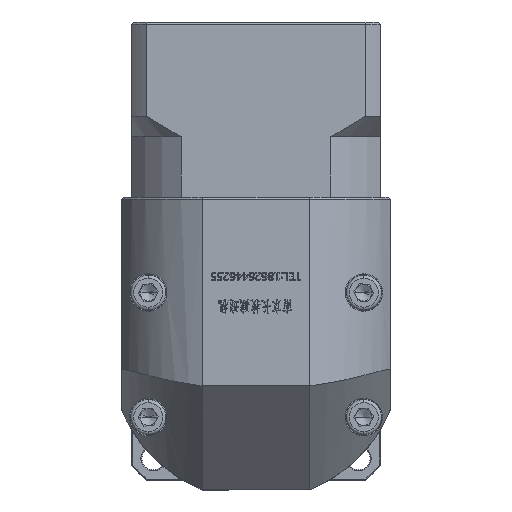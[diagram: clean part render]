
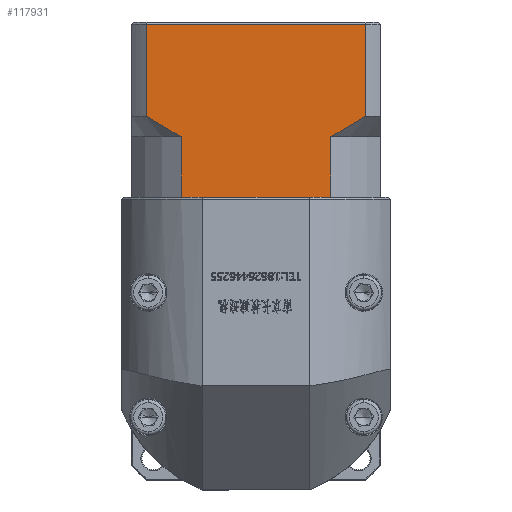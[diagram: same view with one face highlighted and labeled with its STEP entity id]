
A CAD part, top view. The second image highlights one B-rep face of the part: STEP entity #117931.
In plain terms, the highlighted planar face has unit normal (0, 0, 1).
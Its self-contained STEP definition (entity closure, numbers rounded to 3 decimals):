
#1671 = VERTEX_POINT ( 'NONE', #127778 ) ;
#2183 = VECTOR ( 'NONE', #77934, 1000. ) ;
#2710 = CARTESIAN_POINT ( 'NONE',  ( 28.9, 67.272, 200.65 ) ) ;
#6143 = VERTEX_POINT ( 'NONE', #123512 ) ;
#7042 = VERTEX_POINT ( 'NONE', #123620 ) ;
#8567 = VERTEX_POINT ( 'NONE', #67605 ) ;
#8591 = CARTESIAN_POINT ( 'NONE',  ( 21.833, 63.173, 200.65 ) ) ;
#12230 = VECTOR ( 'NONE', #43903, 1000. ) ;
#12321 = VECTOR ( 'NONE', #71000, 1000. ) ;
#13935 = CARTESIAN_POINT ( 'NONE',  ( 23.29, 63.924, 200.65 ) ) ;
#16590 = CARTESIAN_POINT ( 'NONE',  ( -21.292, 67.274, 200.65 ) ) ;
#16838 = LINE ( 'NONE', #120016, #134090 ) ;
#19514 = LINE ( 'NONE', #8591, #12230 ) ;
#19632 = ORIENTED_EDGE ( 'NONE', *, *, #54660, .F. ) ;
#27469 = LINE ( 'NONE', #51856, #117332 ) ;
#28371 = CARTESIAN_POINT ( 'NONE',  ( -17.106, 64.725, 200.65 ) ) ;
#28745 = DIRECTION ( 'NONE',  ( 0., 1., 0. ) ) ;
#28934 = EDGE_CURVE ( 'NONE', #7042, #61289, #16838, .T. ) ;
#30195 = ORIENTED_EDGE ( 'NONE', *, *, #148524, .F. ) ;
#34125 = DIRECTION ( 'NONE',  ( 1., 0., 0. ) ) ;
#35258 = AXIS2_PLACEMENT_3D ( 'NONE', #136271, #66127, #148009 ) ;
#36543 = ORIENTED_EDGE ( 'NONE', *, *, #120409, .T. ) ;
#36995 = LINE ( 'NONE', #92703, #2183 ) ;
#37506 = CARTESIAN_POINT ( 'NONE',  ( 21.833, 63.173, 200.65 ) ) ;
#38085 = B_SPLINE_CURVE_WITH_KNOTS ( 'NONE', 3,
 ( #37506, #13935, #142902, #72868, #2710, #84654 ),
 .UNSPECIFIED., .F., .F.,
 ( 4, 2, 4 ),
 ( 0.1, 0.104, 0.109 ),
 .UNSPECIFIED. ) ;
#38500 = VERTEX_POINT ( 'NONE', #101974 ) ;
#40156 = CARTESIAN_POINT ( 'NONE',  ( -14.222, 63.173, 200.65 ) ) ;
#42313 = ORIENTED_EDGE ( 'NONE', *, *, #50989, .T. ) ;
#43903 = DIRECTION ( 'NONE',  ( 0., -1., 0. ) ) ;
#50396 = DIRECTION ( 'NONE',  ( 0., -1., 0. ) ) ;
#50989 = EDGE_CURVE ( 'NONE', #102739, #1671, #38085, .T. ) ;
#51115 = VECTOR ( 'NONE', #123350, 1000. ) ;
#51856 = CARTESIAN_POINT ( 'NONE',  ( -22.652, 63.173, 200.65 ) ) ;
#54660 = EDGE_CURVE ( 'NONE', #8567, #6143, #85965, .T. ) ;
#55293 = CARTESIAN_POINT ( 'NONE',  ( 20.842, 48.673, 200.65 ) ) ;
#55604 = LINE ( 'NONE', #117056, #114223 ) ;
#55720 = ORIENTED_EDGE ( 'NONE', *, *, #150672, .T. ) ;
#60189 = DIRECTION ( 'NONE',  ( -1., 0., 0. ) ) ;
#61289 = VERTEX_POINT ( 'NONE', #137496 ) ;
#66127 = DIRECTION ( 'NONE',  ( 0., 0., -1. ) ) ;
#67605 = CARTESIAN_POINT ( 'NONE',  ( -14.222, 48.673, 200.65 ) ) ;
#69699 = EDGE_LOOP ( 'NONE', ( #83814, #120725, #75564, #86658, #19632, #55720, #134228, #36543, #30195, #42313 ) ) ;
#71000 = DIRECTION ( 'NONE',  ( 1., 0., 0. ) ) ;
#72868 = CARTESIAN_POINT ( 'NONE',  ( 27.52, 66.398, 200.65 ) ) ;
#74024 = VERTEX_POINT ( 'NONE', #84526 ) ;
#75564 = ORIENTED_EDGE ( 'NONE', *, *, #117836, .F. ) ;
#75832 = CARTESIAN_POINT ( 'NONE',  ( -14.222, 63.173, 200.65 ) ) ;
#77934 = DIRECTION ( 'NONE',  ( 1., 0., 0. ) ) ;
#83814 = ORIENTED_EDGE ( 'NONE', *, *, #100118, .F. ) ;
#84526 = CARTESIAN_POINT ( 'NONE',  ( -22.652, 68.173, 200.65 ) ) ;
#84654 = CARTESIAN_POINT ( 'NONE',  ( 30.263, 68.173, 200.65 ) ) ;
#84962 = B_SPLINE_CURVE_WITH_KNOTS ( 'NONE', 3,
 ( #86804, #16590, #98551, #28371, #110371, #40156 ),
 .UNSPECIFIED., .F., .F.,
 ( 4, 2, 4 ),
 ( 0.052, 0.057, 0.062 ),
 .UNSPECIFIED. ) ;
#85965 = LINE ( 'NONE', #75832, #51115 ) ;
#86658 = ORIENTED_EDGE ( 'NONE', *, *, #92326, .T. ) ;
#86804 = CARTESIAN_POINT ( 'NONE',  ( -22.652, 68.173, 200.65 ) ) ;
#89204 = PLANE ( 'NONE',  #35258 ) ;
#91572 = FACE_OUTER_BOUND ( 'NONE', #69699, .T. ) ;
#92326 = EDGE_CURVE ( 'NONE', #74024, #6143, #84962, .T. ) ;
#92703 = CARTESIAN_POINT ( 'NONE',  ( -26.195, 48.673, 200.65 ) ) ;
#98551 = CARTESIAN_POINT ( 'NONE',  ( -19.914, 66.401, 200.65 ) ) ;
#100118 = EDGE_CURVE ( 'NONE', #7042, #1671, #117266, .T. ) ;
#101974 = CARTESIAN_POINT ( 'NONE',  ( -13.231, 48.673, 200.65 ) ) ;
#102690 = VERTEX_POINT ( 'NONE', #55293 ) ;
#102739 = VERTEX_POINT ( 'NONE', #149470 ) ;
#104829 = VERTEX_POINT ( 'NONE', #149523 ) ;
#105822 = CARTESIAN_POINT ( 'NONE',  ( -26.195, 48.673, 200.65 ) ) ;
#105857 = LINE ( 'NONE', #105822, #12321 ) ;
#110371 = CARTESIAN_POINT ( 'NONE',  ( -15.674, 63.921, 200.65 ) ) ;
#114223 = VECTOR ( 'NONE', #34125, 1000. ) ;
#117056 = CARTESIAN_POINT ( 'NONE',  ( -26.195, 48.673, 200.65 ) ) ;
#117266 = LINE ( 'NONE', #120501, #144674 ) ;
#117332 = VECTOR ( 'NONE', #28745, 1000. ) ;
#117836 = EDGE_CURVE ( 'NONE', #74024, #61289, #27469, .T. ) ;
#117931 = ADVANCED_FACE ( 'NONE', ( #91572 ), #89204, .F. ) ;
#120016 = CARTESIAN_POINT ( 'NONE',  ( -26.195, 90.373, 200.65 ) ) ;
#120409 = EDGE_CURVE ( 'NONE', #102690, #104829, #36995, .T. ) ;
#120501 = CARTESIAN_POINT ( 'NONE',  ( 30.263, 63.173, 200.65 ) ) ;
#120725 = ORIENTED_EDGE ( 'NONE', *, *, #28934, .T. ) ;
#123350 = DIRECTION ( 'NONE',  ( 0., 1., 0. ) ) ;
#123512 = CARTESIAN_POINT ( 'NONE',  ( -14.222, 63.173, 200.65 ) ) ;
#123620 = CARTESIAN_POINT ( 'NONE',  ( 30.263, 90.373, 200.65 ) ) ;
#127778 = CARTESIAN_POINT ( 'NONE',  ( 30.263, 68.173, 200.65 ) ) ;
#128764 = EDGE_CURVE ( 'NONE', #38500, #102690, #105857, .T. ) ;
#134090 = VECTOR ( 'NONE', #60189, 1000. ) ;
#134228 = ORIENTED_EDGE ( 'NONE', *, *, #128764, .T. ) ;
#136271 = CARTESIAN_POINT ( 'NONE',  ( -26.195, 90.873, 200.65 ) ) ;
#137496 = CARTESIAN_POINT ( 'NONE',  ( -22.652, 90.373, 200.65 ) ) ;
#142902 = CARTESIAN_POINT ( 'NONE',  ( 24.715, 64.724, 200.65 ) ) ;
#144674 = VECTOR ( 'NONE', #50396, 1000. ) ;
#148009 = DIRECTION ( 'NONE',  ( 0., 1., 0. ) ) ;
#148524 = EDGE_CURVE ( 'NONE', #102739, #104829, #19514, .T. ) ;
#149470 = CARTESIAN_POINT ( 'NONE',  ( 21.833, 63.173, 200.65 ) ) ;
#149523 = CARTESIAN_POINT ( 'NONE',  ( 21.833, 48.673, 200.65 ) ) ;
#150672 = EDGE_CURVE ( 'NONE', #8567, #38500, #55604, .T. ) ;
